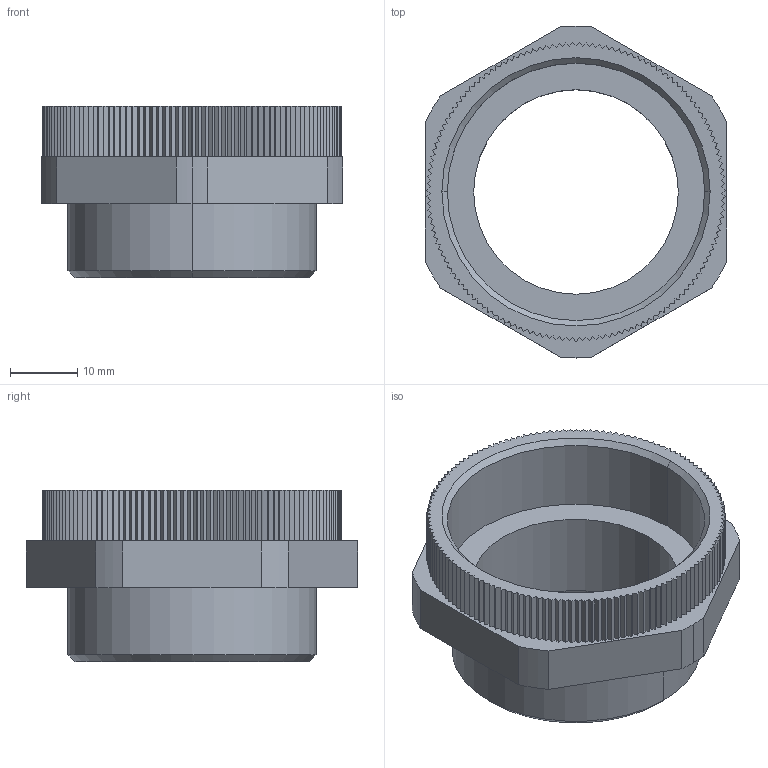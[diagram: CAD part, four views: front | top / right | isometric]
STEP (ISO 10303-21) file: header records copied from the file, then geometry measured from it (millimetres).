
FILE_DESCRIPTION (( 'STEP AP203' ), '1' );
FILE_NAME ('PG29M40PA.STEP', '2006-04-06T13:12:06', ( ' ' ), ( '' ), 'SwSTEP 2.0', 'SolidWorks 2005278', '' );
FILE_SCHEMA (( 'CONFIG_CONTROL_DESIGN' ));
Length unit declared in the file: millimetre
Products named in the file (1): PG29M40PA
Bounding box: 45 x 49.49 x 25.5 mm (x, y, z)
Volume: 11737.2 mm3; surface area: 8399.7 mm2
Topology: 1 solids, 1 shells, 485 faces, 1427 edges, 950 vertices
Faces by surface type: plane 326, cylinder 153, cone 4, torus 2
Entity records: 16186 total; most frequent: CARTESIAN_POINT 2863, ORIENTED_EDGE 2854, DIRECTION 2715, EDGE_CURVE 1427, VECTOR 1111, LINE 1111, VERTEX_POINT 950, AXIS2_PLACEMENT_3D 802
